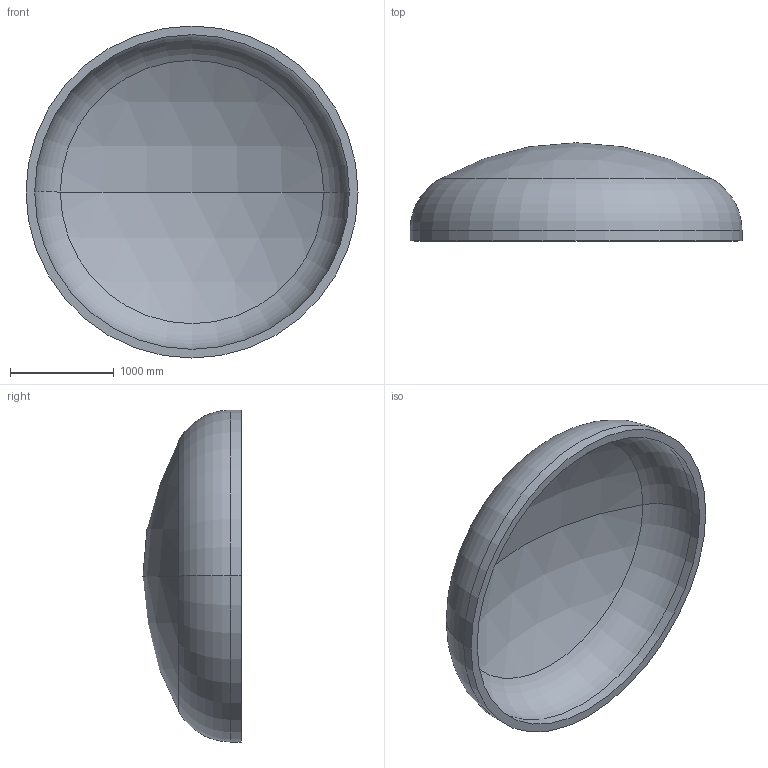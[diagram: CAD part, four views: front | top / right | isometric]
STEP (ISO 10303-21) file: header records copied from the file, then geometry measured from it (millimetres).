
FILE_DESCRIPTION (( 'STEP AP203' ), '1' );
FILE_NAME ('DIN 28013 Korbbogenform_-_Boden DIN 28013 - 3200 x 100 - I - s=84.step', '2016-07-01T18:53:20', ( '' ), ( '' ), 'SwSTEP 2.0', 'SolidWorks 2013', '' );
FILE_SCHEMA (( 'CONFIG_CONTROL_DESIGN' ));
Length unit declared in the file: millimetre
Products named in the file (1): DIN 28013 Korbbogenform_-_Boden DIN 28013 - 3200 x 100 - I - s=84
Bounding box: 3200 x 946.16 x 3200 mm (x, y, z)
Volume: 985218422 mm3; surface area: 24294644.6 mm2
Topology: 1 solids, 1 shells, 13 faces, 24 edges, 14 vertices
Faces by surface type: torus 4, cylinder 4, sphere 4, plane 1
Entity records: 407 total; most frequent: DIRECTION 72, CARTESIAN_POINT 52, ORIENTED_EDGE 48, AXIS2_PLACEMENT_3D 34, EDGE_CURVE 24, CIRCLE 20, VERTEX_POINT 14, EDGE_LOOP 14
